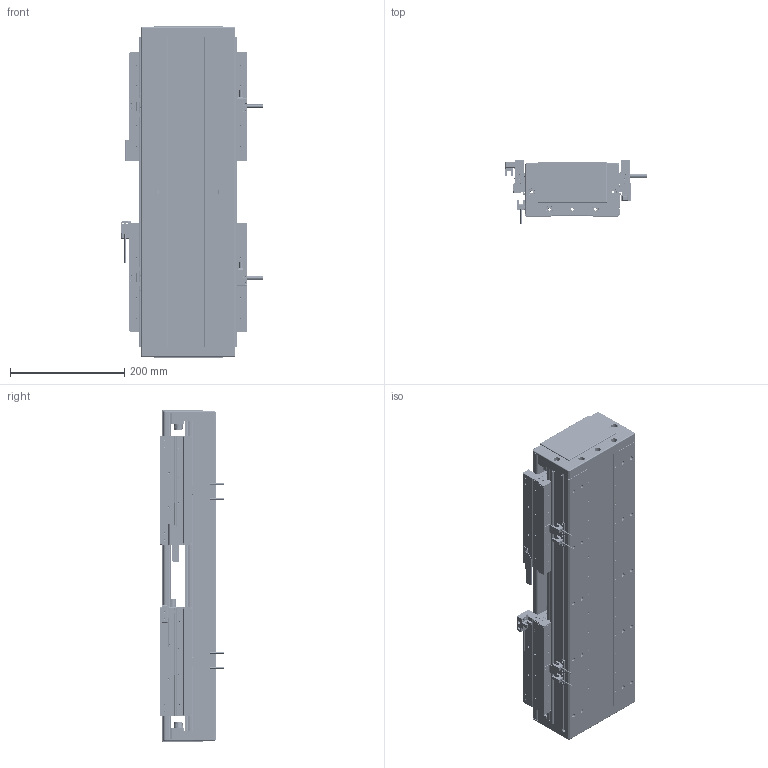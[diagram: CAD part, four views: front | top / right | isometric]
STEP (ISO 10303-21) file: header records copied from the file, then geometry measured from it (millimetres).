
FILE_DESCRIPTION (( 'STEP AP203' ), '1' );
FILE_NAME ('DA-C165-2-C2-T80-C010-0.2 直线电机.STEP', '2023-05-11T08:14:07', ( '微软用户' ), ( '微软中国' ), 'SwSTEP 2.0', 'SolidWorks 2019', '' );
FILE_SCHEMA (( 'CONFIG_CONTROL_DESIGN' ));
Length unit declared in the file: millimetre
Products named in the file (19): 复件 DA126-GYP-ZJ-00 中间光电感应片^DA-C165-C2-T-C010-0.2-N 直线电机; 复件 DA165-T-002-00 盖板^DA-C165-C2-T-C010-0.2-N 直线电机_0840-002-00; 复件 DKW-HXJ-JY-00 缓冲橡胶^DA-C165-C2-T-C010-0.2-N 直线电机; 复件 XD-U-02L 磁栅尺^DA-C165-C2-T-C010-0.2-N 直线电机_T; 复件 66338-1000-006-00 光电感应块^DA-C165-C2-T-C010-0.2-N 直线电机; 葩璃 DA95-GT-T-00^IU-CU165-L 菁釱絳寢_T; 复件 DA95-HXJ-00 缓冲橡胶^DA-C165-C2-T-C010-0.2-N 直线电机; IU-CU165-L 菁釱絳寢; 葩璃 PM-Y45^DA-C165-C2-T-C010-0.2-N 眻盄萇儂; 葩璃 PM-T45^DA-C165-C2-T-C010-0.2-N 眻盄萇儂; 复件 六角薄螺母 M3^DA-C165-C2-T-C010-0.2-N 直线电机_GB_FASTENER_NUT_STNAB M3-C; 复件 DA165-GYP-00 光电感应片^DA-C165-C2-T-C010-0.2-N 直线电机; 珨极趙賑雄怢啣wf-C2; IU-CU165-L-00 菁釱_L540; DA-C165-2-C2-T80-C010-0.2 眻盄萇儂; 复件 DMA-010-0.2 读数头^DA-C165-C2-T-C010-0.2-N 直线电机; 复件 DA165-DG-H-N-00 端盖^DA-C165-C2-T-C010-0.2-N 直线电机; 葩璃 CKM01-W075-TRL^DA-C165-C2-T-C010-0.2-N 眻盄萇儂; 复件 CKM02-W075-C1C2-TP-3.0 一体电机-C2^DA-C165-C2-T-C010-0.2-N 直线电机
Assembly tree (38 placements, depth 3):
  DA-C165-2-C2-T80-C010-0.2 眻盄萇儂
    IU-CU165-L 菁釱絳寢
      IU-CU165-L-00 菁釱_L540
      葩璃 DA95-GT-T-00^IU-CU165-L 菁釱絳寢_T  x4
    复件 DA165-DG-H-N-00 端盖^DA-C165-C2-T-C010-0.2-N 直线电机  x2
    复件 DA95-HXJ-00 缓冲橡胶^DA-C165-C2-T-C010-0.2-N 直线电机  x4
    复件 DA165-T-002-00 盖板^DA-C165-C2-T-C010-0.2-N 直线电机_0840-002-00
    复件 XD-U-02L 磁栅尺^DA-C165-C2-T-C010-0.2-N 直线电机_T
    葩璃 PM-T45^DA-C165-C2-T-C010-0.2-N 眻盄萇儂  x4
    葩璃 CKM01-W075-TRL^DA-C165-C2-T-C010-0.2-N 眻盄萇儂
    复件 CKM02-W075-C1C2-TP-3.0 一体电机-C2^DA-C165-C2-T-C010-0.2-N 直线电机  x2
    复件 DMA-010-0.2 读数头^DA-C165-C2-T-C010-0.2-N 直线电机  x2
    复件 DA165-GYP-00 光电感应片^DA-C165-C2-T-C010-0.2-N 直线电机  x2
    复件 66338-1000-006-00 光电感应块^DA-C165-C2-T-C010-0.2-N 直线电机
    葩璃 PM-Y45^DA-C165-C2-T-C010-0.2-N 眻盄萇儂
    复件 DA126-GYP-ZJ-00 中间光电感应片^DA-C165-C2-T-C010-0.2-N 直线电机
    复件 DKW-HXJ-JY-00 缓冲橡胶^DA-C165-C2-T-C010-0.2-N 直线电机  x2
    复件 六角薄螺母 M3^DA-C165-C2-T-C010-0.2-N 直线电机_GB_FASTENER_NUT_STNAB M3-C  x6
    珨极趙賑雄怢啣wf-C2  x2
Bounding box: 247.2 x 111.45 x 580 mm (x, y, z)
Volume: 6733512.2 mm3; surface area: 1608291.4 mm2
Topology: 115 solids, 115 shells, 4612 faces, 12031 edges, 7438 vertices
Faces by surface type: cylinder 2086, plane 1750, cone 680, torus 88, sphere 8
Entity records: 85780 total; most frequent: CARTESIAN_POINT 18140, DIRECTION 13951, ORIENTED_EDGE 13308, EDGE_CURVE 6654, AXIS2_PLACEMENT_3D 5154, VERTEX_POINT 4275, LINE 3643, VECTOR 3643
